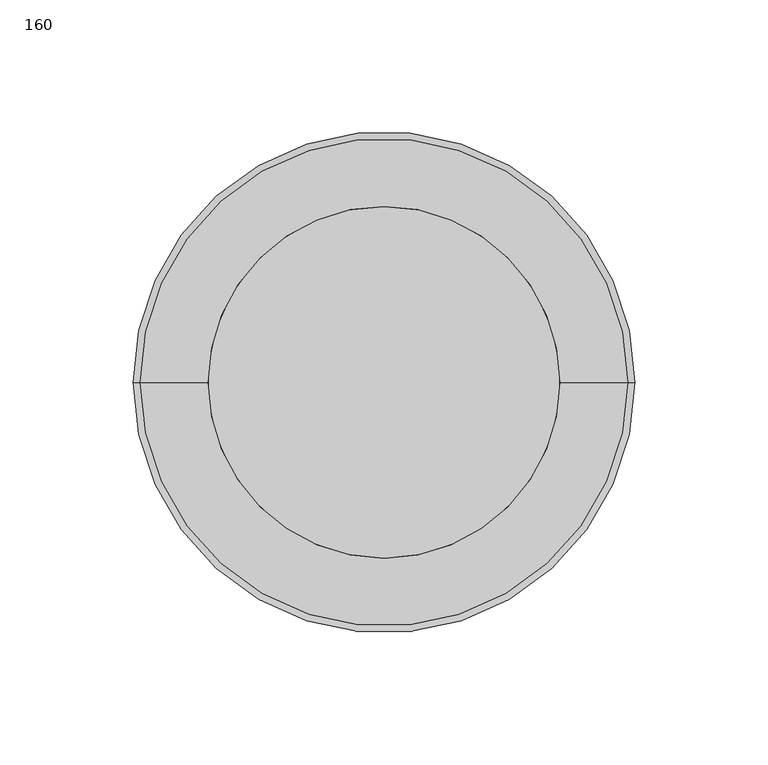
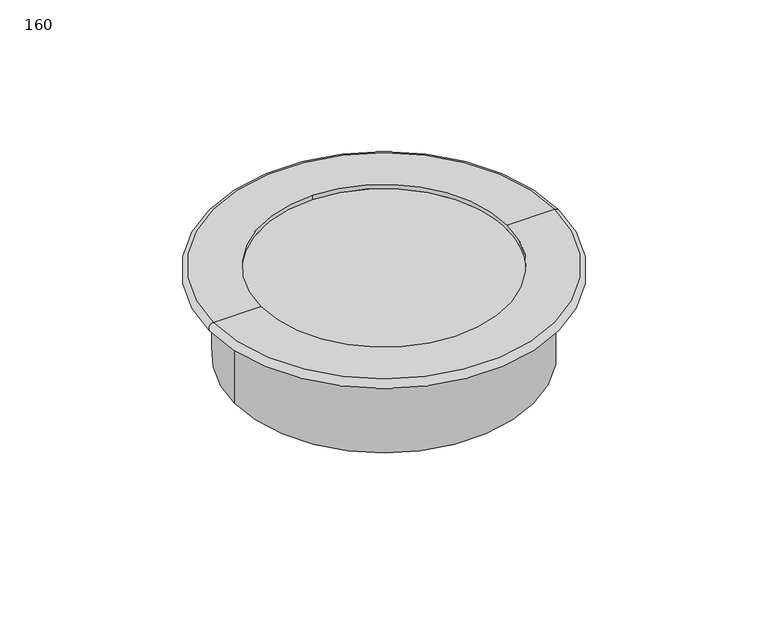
"""IFC4 building model written with IfcOpenShell, lengths in millimetres: duct fitting geometry, HEATPEX - ARIA ADURO - Czerpnia płaska : 160."""

from ifc_helpers import new_model, si_unit, point, frame, origin, origin_2d, place, context, project, spatial, polyline, circle_curve, ellipse_curve, trimmed, segment, composite_curve, outline, extrude, source, transform, mapped, element, save
from ifc_brep_helpers import plane_surface, revolved_surface, advanced_brep


def duct_fitting_160_bce058bc(model_context):
    return source(origin(), model_context, "Body", "SolidModel", [
        advanced_brep(
        [(91.5, 0.0, 0.0), (-91.5, 0.0, 0.0), (-91.5, 0.0, 5.0), (91.5, 0.0, 5.0), (0.0, 0.0, 0.0), (-66.0, 0.0, 5.0), (0.0, 66.0, 5.0), (66.0, 0.0, 5.0), (0.0, -66.0, 5.0), (0.0, 66.0, 2.5), (0.0, -66.0, 2.5)],
        [
            (0, 1, circle_curve(frame((0.0, 0.0, 0.0), z_axis=(0.0, 0.0, 1.0), x_axis=(-1.0, 0.0, 0.0)), 91.5)),
            (1, 2, circle_curve(frame((-91.5, 0.0, 2.5), z_axis=(0.0, 1.0, 0.0), x_axis=(1.0, 0.0, 0.0)), 2.5)),
            (2, 3, circle_curve(frame((0.0, 0.0, 5.0), z_axis=(0.0, 0.0, -1.0), x_axis=(-1.0, 0.0, 0.0)), 91.5)),
            (3, 0, circle_curve(frame((91.5, 0.0, 2.5), z_axis=(0.0, 1.0, 0.0), x_axis=(-1.0, 0.0, 0.0)), 2.5)),
            (1, 0, circle_curve(frame((0.0, 0.0, 0.0), z_axis=(0.0, 0.0, 1.0), x_axis=(-1.0, 0.0, 0.0)), 91.5)),
            (3, 2, circle_curve(frame((0.0, 0.0, 5.0), z_axis=(0.0, 0.0, -1.0), x_axis=(-1.0, 0.0, 0.0)), 91.5)),
            (0, 4),
            (4, 1),
            (2, 5),
            (5, 6, circle_curve(frame((0.0, 0.0, 5.0), z_axis=(0.0, 0.0, -1.0), x_axis=(0.0, -1.0, 0.0)), 66.0)),
            (6, 7, circle_curve(frame((0.0, 0.0, 5.0), z_axis=(0.0, 0.0, -1.0), x_axis=(0.0, -1.0, 0.0)), 66.0)),
            (7, 3),
            (7, 8, circle_curve(frame((0.0, 0.0, 5.0), z_axis=(0.0, 0.0, -1.0), x_axis=(0.0, -1.0, 0.0)), 66.0)),
            (8, 5, circle_curve(frame((0.0, 0.0, 5.0), z_axis=(0.0, 0.0, -1.0), x_axis=(0.0, -1.0, 0.0)), 66.0)),
            (9, 10, circle_curve(frame((0.0, 0.0, 2.5), z_axis=(0.0, 0.0, 1.0), x_axis=(0.0, -1.0, 0.0)), 66.0)),
            (10, 9, circle_curve(frame((0.0, 0.0, 2.5), z_axis=(0.0, 0.0, 1.0), x_axis=(0.0, -1.0, 0.0)), 66.0)),
            (10, 8),
            (6, 9),
        ],
        [
            revolved_surface(trimmed(ellipse_curve(frame((-91.5, 0.0, 2.5), z_axis=(0.0, -1.0, 0.0), x_axis=(1.0, 0.0, 0.0)), 2.5, 2.5), [point((-91.5, 0.0, 5.0))], [point((-91.5, 0.0, 0.0))], True, "CARTESIAN"), (0.0, 0.0, 27.1065998), (0.0, 0.0, -1.0)),
            plane_surface(frame((0.0, 0.0, 0.0), z_axis=(0.0, 0.0, -1.0), x_axis=(-1.0, 0.0, 0.0))),
            plane_surface(frame((0.0, 0.0, 5.0), z_axis=(0.0, 0.0, 1.0), x_axis=(-1.0, 0.0, 0.0))),
            plane_surface(frame((0.0, 0.0, 2.5), z_axis=(0.0, 0.0, 1.0), x_axis=(1.0, 0.0, 0.0))),
            revolved_surface(polyline([(0.0, -66.0, 2.5), (0.0, -66.0, 5.0)]), (0.0, 0.0, 2.5), (0.0, 0.0, -1.0)),
        ],
        [
            (0, [[1, 2, 3, 4]]),
            (0, [[-2, 5, -4, 6]]),
            (1, [[-1, 7, 8]]),
            (1, [[-5, -8, -7]]),
            (2, [[-3, 9, 10, 11, 12]]),
            (2, [[-6, -12, 13, 14, -9]]),
            (3, [[15, 16]]),
            (4, [[-16, 17, -13, -11, 18]]),
            (4, [[-15, -18, -10, -14, -17]]),
        ],
    ),
        extrude(outline(composite_curve([segment(trimmed(circle_curve(origin_2d(), 80.0), [point((-80.0, 0.0))], [point((80.0, 0.0))], False, "CARTESIAN"), True, "CONTINUOUS"), segment(trimmed(circle_curve(origin_2d(), 80.0), [point((80.0, 0.0))], [point((-80.0, 0.0))], False, "CARTESIAN"), True, "CONTINUOUS")], self_intersect=False)), frame((0.0, 0.0, -45.0), z_axis=(0.0, 0.0, 1.0), x_axis=(1.0, 0.0, 0.0)), (0.0, 0.0, 1.0), 45.0),
    ])


if __name__ == "__main__":
    model = new_model("IFC4")
    model_context = context("Model", 3, world=origin())
    ifc_project = project(units=[si_unit("LENGTHUNIT", "METRE", prefix="MILLI")], contexts=[model_context])
    site = spatial("IfcSite", under=ifc_project)
    building = spatial("IfcBuilding", under=site)
    placement = place(None, origin())
    duct_fitting_160_shape = duct_fitting_160_bce058bc(model_context)
    element("IfcDuctFitting", 1, ObjectType="HEATPEX - ARIA ADURO - Czerpnia płaska : 160", at=placement, inside=building, context=model_context, shape_type="MappedRepresentation", body=[
        mapped(duct_fitting_160_shape, transform((0.0, 0.0, 0.0), x_axis=(1.0, 0.0, 0.0), y_axis=(0.0, 1.0, 0.0), z_axis=(0.0, 0.0, 1.0))),
    ])
    save(model, "model.ifc")
